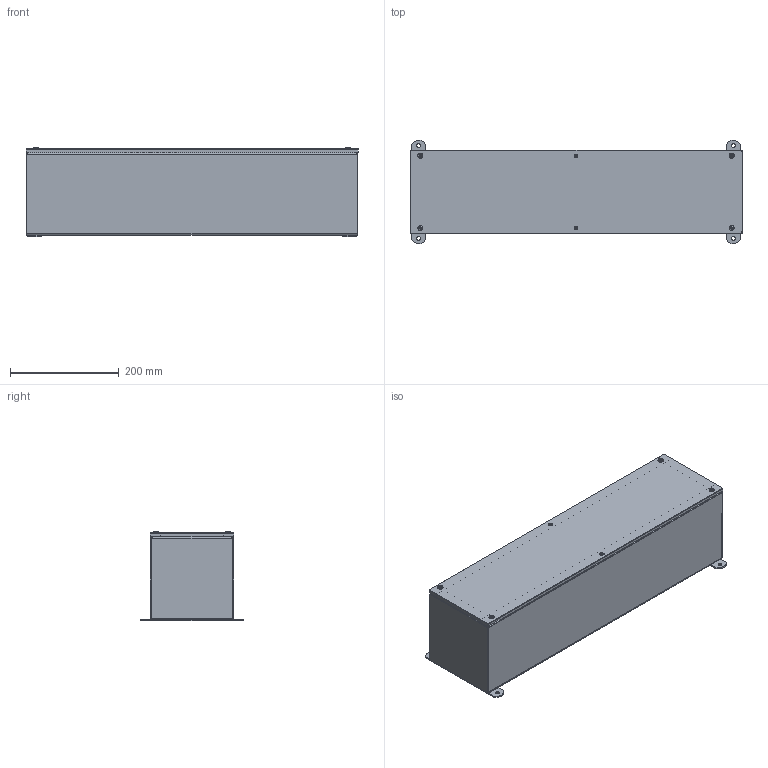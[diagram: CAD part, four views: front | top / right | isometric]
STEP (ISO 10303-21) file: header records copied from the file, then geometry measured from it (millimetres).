
FILE_DESCRIPTION (( 'STEP AP203' ), '1' );
FILE_NAME ('f6624scss.STEP', '2016-02-22T20:14:26', ( '' ), ( '' ), 'SwSTEP 2.0', 'SolidWorks 2014', '' );
FILE_SCHEMA (( 'CONFIG_CONTROL_DESIGN' ));
Length unit declared in the file: inch
Products named in the file (12): 89127663; 89127736; 89127805; 89127748; 89128166; 89127768; 89127755; 14241008; f6624scss; 87789569_DEFAULT; 58110002; 89127721
Assembly tree (26 placements, depth 3):
  f6624scss
    89127755
      89127736
      89127748  x2
      89127768  x2
    14241008  x4
    87789569_DEFAULT  x4
    58110002  x6
    89128166
      89127721
      89127663  x2
      89127805  x2
Bounding box: 609.6 x 190.5 x 164.07 mm (x, y, z)
Volume: 784283.2 mm3; surface area: 970545.9 mm2
Topology: 24 solids, 24 shells, 540 faces, 1288 edges, 814 vertices
Faces by surface type: plane 292, cylinder 128, sphere 40, cone 40, torus 28, bspline 12
Entity records: 10576 total; most frequent: CARTESIAN_POINT 1854, DIRECTION 1492, ORIENTED_EDGE 1416, EDGE_CURVE 708, AXIS2_PLACEMENT_3D 515, LINE 462, VECTOR 462, VERTEX_POINT 457
